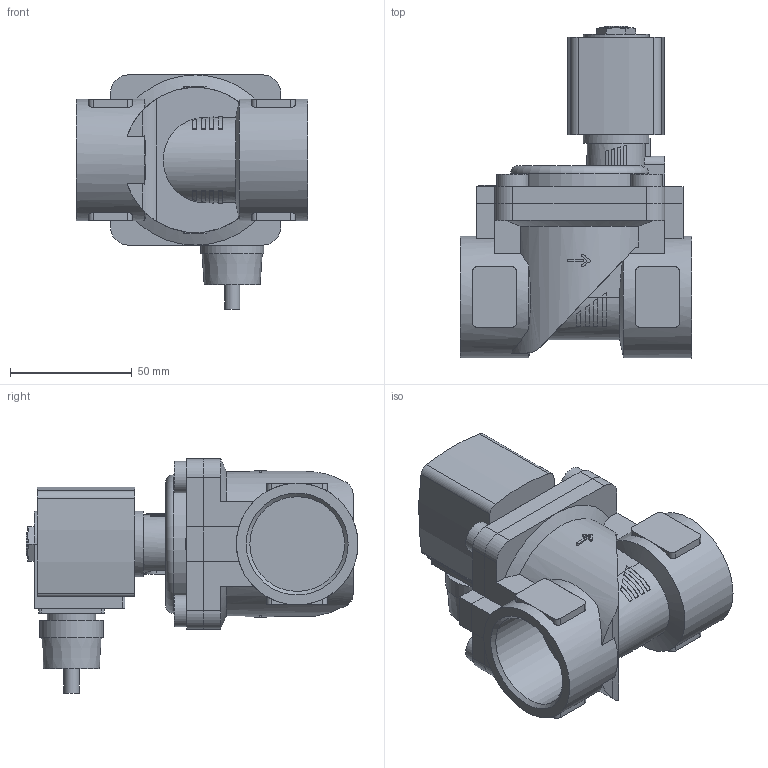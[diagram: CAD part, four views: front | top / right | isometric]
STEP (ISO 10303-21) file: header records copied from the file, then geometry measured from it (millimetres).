
FILE_DESCRIPTION(/* description */ ('STEP AP214'),/* implementation_level */ '2;1');
FILE_NAME(/* name */ '6281-370248-2_2-Way_Solenoid_Valve__Servo-assisted__General_Purpose',/* time_stamp */ '2024-08-27T00:56:49+02:00',/* author */ ('License CC BY-ND 4.0'),/* organization */ ('CADENAS'),/* preprocessor_version */ 'ST-DEVELOPER v19.3',/* originating_system */ 'PARTsolutions',/* authorisation */ ' ');
FILE_SCHEMA (('AUTOMOTIVE_DESIGN {1 0 10303 214 3 1 1}'));
Length unit declared in the file: millimetre
Products named in the file (4): 6281-370248-2/2-Way Solenoid Valve, Servo-assisted, General Purpose; 5281ev250MS2/2-Wege-Magnetventil mit Servomembran-Deckel   ; 6213-25G1_1/4MS-Gehaeuse-; AC10ex-6ATEXKabelPlan-Coil
Assembly tree (3 placements, depth 2):
  6281-370248-2/2-Way Solenoid Valve, Servo-assisted, General Purpose
    5281ev250MS2/2-Wege-Magnetventil mit Servomembran-Deckel   
    6213-25G1_1/4MS-Gehaeuse-
    AC10ex-6ATEXKabelPlan-Coil
Bounding box: 95 x 136.5 x 96.3 mm (x, y, z)
Volume: 341974.1 mm3; surface area: 64770.7 mm2
Topology: 3 solids, 3 shells, 292 faces, 756 edges, 499 vertices
Faces by surface type: plane 188, cylinder 88, cone 15, torus 1
Full cylindrical faces by diameter (mm): 6.2 x1, 9.74 x1, 13 x4, 20 x1, 26 x1, 27 x1, 38.952 x2, 50 x2
Entity records: 9881 total; most frequent: CARTESIAN_POINT 1775, DIRECTION 1497, ORIENTED_EDGE 1462, EDGE_CURVE 731, AXIS2_PLACEMENT_3D 536, VERTEX_POINT 491, LINE 425, VECTOR 425
